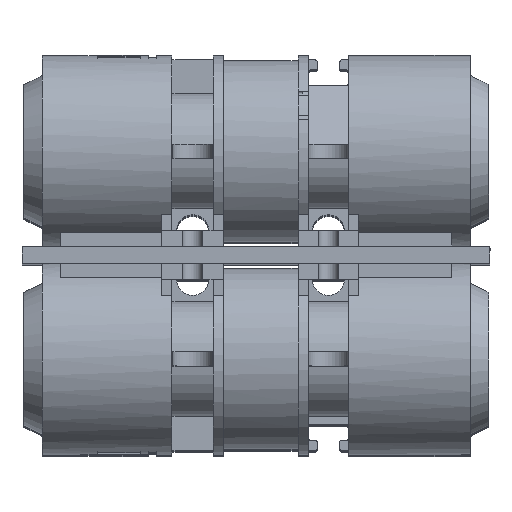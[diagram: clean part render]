
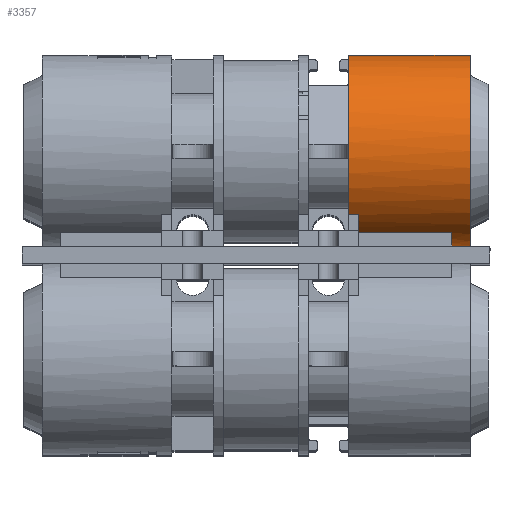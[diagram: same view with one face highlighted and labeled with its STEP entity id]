
A CAD part, top view. The second image highlights one B-rep face of the part: STEP entity #3357.
In plain terms, the highlighted cylindrical face has radius 4.75 mm (diameter 9.5 mm), a full revolution.
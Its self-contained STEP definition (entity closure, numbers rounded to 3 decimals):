
#142=CIRCLE('',#3593,4.75);
#143=CIRCLE('',#3595,4.75);
#144=CIRCLE('',#3596,4.75);
#145=CIRCLE('',#3597,4.75);
#146=CIRCLE('',#3598,4.75);
#147=CIRCLE('',#3599,4.75);
#148=CIRCLE('',#3600,4.75);
#255=CYLINDRICAL_SURFACE('',#3594,4.75);
#322=FACE_OUTER_BOUND('',#508,.T.);
#508=EDGE_LOOP('',(#2291,#2292,#2293,#2294,#2295,#2296,#2297,#2298,#2299,
#2300,#2301,#2302,#2303));
#719=LINE('',#5076,#1082);
#720=LINE('',#5081,#1083);
#721=LINE('',#5084,#1084);
#722=LINE('',#5088,#1085);
#723=LINE('',#5091,#1086);
#1082=VECTOR('',#4015,4.75);
#1083=VECTOR('',#4020,10.);
#1084=VECTOR('',#4023,10.);
#1085=VECTOR('',#4026,10.);
#1086=VECTOR('',#4029,10.);
#1453=VERTEX_POINT('',#5065);
#1454=VERTEX_POINT('',#5066);
#1456=VERTEX_POINT('',#5072);
#1457=VERTEX_POINT('',#5073);
#1458=VERTEX_POINT('',#5075);
#1459=VERTEX_POINT('',#5078);
#1460=VERTEX_POINT('',#5080);
#1461=VERTEX_POINT('',#5082);
#1462=VERTEX_POINT('',#5085);
#1463=VERTEX_POINT('',#5087);
#1464=VERTEX_POINT('',#5089);
#1779=EDGE_CURVE('',#1453,#1454,#142,.T.);
#1782=EDGE_CURVE('',#1456,#1457,#143,.T.);
#1783=EDGE_CURVE('',#1457,#1458,#719,.T.);
#1784=EDGE_CURVE('',#1458,#1458,#144,.T.);
#1785=EDGE_CURVE('',#1457,#1459,#145,.T.);
#1786=EDGE_CURVE('',#1459,#1460,#720,.T.);
#1787=EDGE_CURVE('',#1460,#1461,#146,.T.);
#1788=EDGE_CURVE('',#1461,#1454,#721,.T.);
#1789=EDGE_CURVE('',#1462,#1453,#147,.T.);
#1790=EDGE_CURVE('',#1462,#1463,#722,.T.);
#1791=EDGE_CURVE('',#1463,#1464,#148,.T.);
#1792=EDGE_CURVE('',#1464,#1456,#723,.T.);
#2291=ORIENTED_EDGE('',*,*,#1782,.T.);
#2292=ORIENTED_EDGE('',*,*,#1783,.T.);
#2293=ORIENTED_EDGE('',*,*,#1784,.F.);
#2294=ORIENTED_EDGE('',*,*,#1783,.F.);
#2295=ORIENTED_EDGE('',*,*,#1785,.T.);
#2296=ORIENTED_EDGE('',*,*,#1786,.T.);
#2297=ORIENTED_EDGE('',*,*,#1787,.T.);
#2298=ORIENTED_EDGE('',*,*,#1788,.T.);
#2299=ORIENTED_EDGE('',*,*,#1779,.F.);
#2300=ORIENTED_EDGE('',*,*,#1789,.F.);
#2301=ORIENTED_EDGE('',*,*,#1790,.T.);
#2302=ORIENTED_EDGE('',*,*,#1791,.T.);
#2303=ORIENTED_EDGE('',*,*,#1792,.T.);
#3357=ADVANCED_FACE('',(#322),#255,.T.);
#3593=AXIS2_PLACEMENT_3D('',#5067,#4007,#4008);
#3594=AXIS2_PLACEMENT_3D('',#5071,#4011,#4012);
#3595=AXIS2_PLACEMENT_3D('',#5074,#4013,#4014);
#3596=AXIS2_PLACEMENT_3D('',#5077,#4016,#4017);
#3597=AXIS2_PLACEMENT_3D('',#5079,#4018,#4019);
#3598=AXIS2_PLACEMENT_3D('',#5083,#4021,#4022);
#3599=AXIS2_PLACEMENT_3D('',#5086,#4024,#4025);
#3600=AXIS2_PLACEMENT_3D('',#5090,#4027,#4028);
#4007=DIRECTION('center_axis',(-1.,0.,0.));
#4008=DIRECTION('ref_axis',(0.,-1.,0.));
#4011=DIRECTION('center_axis',(-1.,0.,0.));
#4012=DIRECTION('ref_axis',(0.,-1.,0.));
#4013=DIRECTION('center_axis',(1.,0.,0.));
#4014=DIRECTION('ref_axis',(0.,0.,-1.));
#4015=DIRECTION('',(1.,0.,0.));
#4016=DIRECTION('center_axis',(1.,0.,0.));
#4017=DIRECTION('ref_axis',(0.,-1.,0.));
#4018=DIRECTION('center_axis',(1.,0.,0.));
#4019=DIRECTION('ref_axis',(0.,0.,-1.));
#4020=DIRECTION('',(1.,0.,0.));
#4021=DIRECTION('center_axis',(1.,0.,0.));
#4022=DIRECTION('ref_axis',(0.,1.,0.));
#4023=DIRECTION('',(1.,0.,0.));
#4024=DIRECTION('center_axis',(-1.,0.,0.));
#4025=DIRECTION('ref_axis',(0.,-1.,0.));
#4026=DIRECTION('',(-1.,0.,0.));
#4027=DIRECTION('center_axis',(1.,0.,0.));
#4028=DIRECTION('ref_axis',(0.,1.,0.));
#4029=DIRECTION('',(-1.,0.,0.));
#5065=CARTESIAN_POINT('',(15.68,-4.75,0.));
#5066=CARTESIAN_POINT('',(15.68,-4.039,2.5));
#5067=CARTESIAN_POINT('Origin',(15.68,0.,0.));
#5071=CARTESIAN_POINT('Origin',(16.13,0.,0.));
#5072=CARTESIAN_POINT('',(10.56,-3.156,-3.55));
#5073=CARTESIAN_POINT('',(10.56,4.75,0.));
#5074=CARTESIAN_POINT('Origin',(10.56,0.,0.));
#5075=CARTESIAN_POINT('',(16.58,4.75,0.));
#5076=CARTESIAN_POINT('',(16.13,4.75,0.));
#5077=CARTESIAN_POINT('Origin',(16.58,0.,0.));
#5078=CARTESIAN_POINT('',(10.56,-3.156,3.55));
#5079=CARTESIAN_POINT('Origin',(10.56,0.,0.));
#5080=CARTESIAN_POINT('',(11.06,-3.156,3.55));
#5081=CARTESIAN_POINT('',(13.12,-3.156,3.55));
#5082=CARTESIAN_POINT('',(11.06,-4.039,2.5));
#5083=CARTESIAN_POINT('Origin',(11.06,0.,0.));
#5084=CARTESIAN_POINT('',(13.12,-4.039,2.5));
#5085=CARTESIAN_POINT('',(15.68,-4.039,-2.5));
#5086=CARTESIAN_POINT('Origin',(15.68,0.,0.));
#5087=CARTESIAN_POINT('',(11.06,-4.039,-2.5));
#5088=CARTESIAN_POINT('',(13.12,-4.039,-2.5));
#5089=CARTESIAN_POINT('',(11.06,-3.156,-3.55));
#5090=CARTESIAN_POINT('Origin',(11.06,0.,0.));
#5091=CARTESIAN_POINT('',(13.12,-3.156,-3.55));
